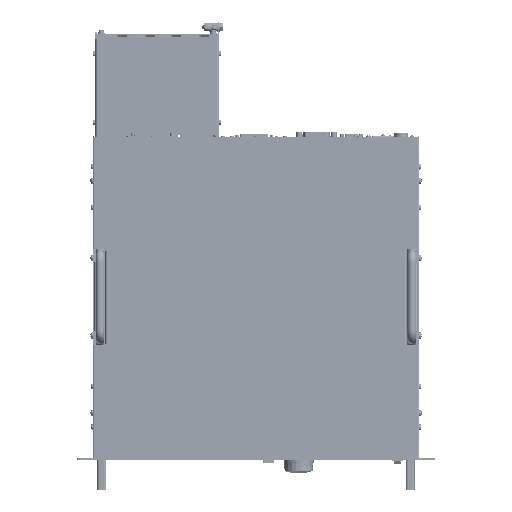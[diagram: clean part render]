
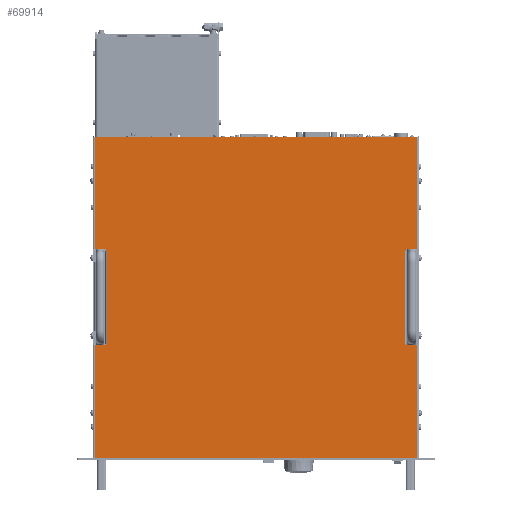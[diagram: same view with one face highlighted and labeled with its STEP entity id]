
A CAD part, top view. The second image highlights one B-rep face of the part: STEP entity #69914.
In plain terms, the highlighted planar face has unit normal (0, 0, 1).
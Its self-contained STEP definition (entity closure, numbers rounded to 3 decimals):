
#69914=ADVANCED_FACE('',(#141802),#141803,.F.);
#141802=FACE_OUTER_BOUND('',#247665,.T.);
#141803=PLANE('',#247666);
#247665=EDGE_LOOP('',(#444983,#444984,#444985,#444986,#444987,#444988,#444989,#444990,#444991,#444992,#444993,#444994,#444995,#444996,#444997,#444998,#444999,#445000,#445001,#445002));
#247666=AXIS2_PLACEMENT_3D('',#445003,#445004,#445005);
#444983=ORIENTED_EDGE('',*,*,#530722,.T.);
#444984=ORIENTED_EDGE('',*,*,#530742,.F.);
#444985=ORIENTED_EDGE('',*,*,#530743,.F.);
#444986=ORIENTED_EDGE('',*,*,#530386,.F.);
#444987=ORIENTED_EDGE('',*,*,#530708,.F.);
#444988=ORIENTED_EDGE('',*,*,#530371,.F.);
#444989=ORIENTED_EDGE('',*,*,#530697,.F.);
#444990=ORIENTED_EDGE('',*,*,#530744,.F.);
#444991=ORIENTED_EDGE('',*,*,#530740,.T.);
#444992=ORIENTED_EDGE('',*,*,#530735,.F.);
#444993=ORIENTED_EDGE('',*,*,#530732,.T.);
#444994=ORIENTED_EDGE('',*,*,#530745,.F.);
#444995=ORIENTED_EDGE('',*,*,#530673,.F.);
#444996=ORIENTED_EDGE('',*,*,#530361,.F.);
#444997=ORIENTED_EDGE('',*,*,#530662,.F.);
#444998=ORIENTED_EDGE('',*,*,#530381,.F.);
#444999=ORIENTED_EDGE('',*,*,#530746,.F.);
#445000=ORIENTED_EDGE('',*,*,#530747,.F.);
#445001=ORIENTED_EDGE('',*,*,#530719,.T.);
#445002=ORIENTED_EDGE('',*,*,#530727,.T.);
#445003=CARTESIAN_POINT('',(239.8,220.125,86.465));
#445004=DIRECTION('',(0.,0.,-1.0));
#445005=DIRECTION('',(1.0,0.,0.));
#530361=EDGE_CURVE('',#645215,#645217,#645218,.T.);
#530371=EDGE_CURVE('',#645233,#645235,#645236,.T.);
#530381=EDGE_CURVE('',#645251,#645253,#645254,.T.);
#530386=EDGE_CURVE('',#645260,#645262,#645263,.T.);
#530662=EDGE_CURVE('',#645253,#645215,#645693,.T.);
#530673=EDGE_CURVE('',#645217,#645708,#645709,.T.);
#530697=EDGE_CURVE('',#645741,#645233,#645743,.T.);
#530708=EDGE_CURVE('',#645235,#645260,#645758,.T.);
#530719=EDGE_CURVE('',#645769,#645772,#645774,.T.);
#530722=EDGE_CURVE('',#645779,#645776,#645780,.T.);
#530727=EDGE_CURVE('',#645772,#645779,#645785,.T.);
#530732=EDGE_CURVE('',#645791,#645789,#645792,.T.);
#530735=EDGE_CURVE('',#645791,#645795,#645796,.T.);
#530740=EDGE_CURVE('',#645801,#645795,#645803,.T.);
#530742=EDGE_CURVE('',#645805,#645776,#645806,.T.);
#530743=EDGE_CURVE('',#645262,#645805,#645807,.T.);
#530744=EDGE_CURVE('',#645801,#645741,#645808,.T.);
#530745=EDGE_CURVE('',#645708,#645789,#645809,.T.);
#530746=EDGE_CURVE('',#645810,#645251,#645811,.T.);
#530747=EDGE_CURVE('',#645769,#645810,#645812,.T.);
#645215=VERTEX_POINT('',#807126);
#645217=VERTEX_POINT('',#807128);
#645218=LINE('',#807129,#807130);
#645233=VERTEX_POINT('',#807148);
#645235=VERTEX_POINT('',#807150);
#645236=LINE('',#807151,#807152);
#645251=VERTEX_POINT('',#807170);
#645253=VERTEX_POINT('',#807172);
#645254=LINE('',#807173,#807174);
#645260=VERTEX_POINT('',#807181);
#645262=VERTEX_POINT('',#807183);
#645263=LINE('',#807184,#807185);
#645693=LINE('',#807736,#807737);
#645708=VERTEX_POINT('',#807757);
#645709=LINE('',#807758,#807759);
#645741=VERTEX_POINT('',#807805);
#645743=LINE('',#807808,#807809);
#645758=LINE('',#807829,#807830);
#645769=VERTEX_POINT('',#807845);
#645772=VERTEX_POINT('',#807849);
#645774=LINE('',#807851,#807852);
#645776=VERTEX_POINT('',#807854);
#645779=VERTEX_POINT('',#807858);
#645780=LINE('',#807859,#807860);
#645785=LINE('',#807865,#807866);
#645789=VERTEX_POINT('',#807871);
#645791=VERTEX_POINT('',#807874);
#645792=LINE('',#807875,#807876);
#645795=VERTEX_POINT('',#807879);
#645796=LINE('',#807880,#807881);
#645801=VERTEX_POINT('',#807886);
#645803=LINE('',#807889,#807890);
#645805=VERTEX_POINT('',#807892);
#645806=LINE('',#807893,#807894);
#645807=LINE('',#807895,#807896);
#645808=LINE('',#807897,#807898);
#645809=LINE('',#807899,#807900);
#645810=VERTEX_POINT('',#807901);
#645811=LINE('',#807902,#807903);
#645812=LINE('',#807904,#807905);
#807126=CARTESIAN_POINT('',(22.123,3.5,86.465));
#807128=CARTESIAN_POINT('',(22.123,155.5,86.465));
#807129=CARTESIAN_POINT('',(22.123,149.813,86.465));
#807130=VECTOR('',#904101,1.0);
#807148=CARTESIAN_POINT('',(22.123,284.75,86.465));
#807150=CARTESIAN_POINT('',(22.123,436.75,86.465));
#807151=CARTESIAN_POINT('',(22.123,290.438,86.465));
#807152=VECTOR('',#904117,1.0);
#807170=CARTESIAN_POINT('',(457.477,155.5,86.465));
#807172=CARTESIAN_POINT('',(457.477,3.5,86.465));
#807173=CARTESIAN_POINT('',(457.477,149.813,86.465));
#807174=VECTOR('',#904133,1.0);
#807181=CARTESIAN_POINT('',(457.477,436.75,86.465));
#807183=CARTESIAN_POINT('',(457.477,284.75,86.465));
#807184=CARTESIAN_POINT('',(457.477,290.438,86.465));
#807185=VECTOR('',#904141,1.0);
#807736=CARTESIAN_POINT('',(460.227,3.5,86.465));
#807737=VECTOR('',#904527,1.0);
#807757=CARTESIAN_POINT('',(37.373,155.5,86.465));
#807758=CARTESIAN_POINT('',(19.373,155.5,86.465));
#807759=VECTOR('',#904545,1.0);
#807805=CARTESIAN_POINT('',(37.373,284.75,86.465));
#807808=CARTESIAN_POINT('',(37.373,284.75,86.465));
#807809=VECTOR('',#904573,1.0);
#807829=CARTESIAN_POINT('',(19.373,436.75,86.465));
#807830=VECTOR('',#904591,1.0);
#807845=CARTESIAN_POINT('',(442.227,157.5,86.465));
#807849=CARTESIAN_POINT('',(440.477,157.5,86.465));
#807851=CARTESIAN_POINT('',(341.093,157.5,86.465));
#807852=VECTOR('',#904603,1.0);
#807854=CARTESIAN_POINT('',(442.227,282.75,86.465));
#807858=CARTESIAN_POINT('',(440.477,282.75,86.465));
#807859=CARTESIAN_POINT('',(341.093,282.75,86.465));
#807860=VECTOR('',#904605,1.0);
#807865=CARTESIAN_POINT('',(440.477,220.125,86.465));
#807866=VECTOR('',#904615,1.0);
#807871=CARTESIAN_POINT('',(37.373,157.5,86.465));
#807874=CARTESIAN_POINT('',(39.123,157.5,86.465));
#807875=CARTESIAN_POINT('',(138.507,157.5,86.465));
#807876=VECTOR('',#904618,1.0);
#807879=CARTESIAN_POINT('',(39.123,282.75,86.465));
#807880=CARTESIAN_POINT('',(39.123,220.125,86.465));
#807881=VECTOR('',#904622,1.0);
#807886=CARTESIAN_POINT('',(37.373,282.75,86.465));
#807889=CARTESIAN_POINT('',(138.507,282.75,86.465));
#807890=VECTOR('',#904630,1.0);
#807892=CARTESIAN_POINT('',(442.227,284.75,86.465));
#807893=CARTESIAN_POINT('',(442.227,284.75,86.465));
#807894=VECTOR('',#904631,1.0);
#807895=CARTESIAN_POINT('',(460.227,284.75,86.465));
#807896=VECTOR('',#904632,1.0);
#807897=CARTESIAN_POINT('',(37.373,282.75,86.465));
#807898=VECTOR('',#904633,1.0);
#807899=CARTESIAN_POINT('',(37.373,155.5,86.465));
#807900=VECTOR('',#904634,1.0);
#807901=CARTESIAN_POINT('',(442.227,155.5,86.465));
#807902=CARTESIAN_POINT('',(442.227,155.5,86.465));
#807903=VECTOR('',#904635,1.0);
#807904=CARTESIAN_POINT('',(442.227,157.5,86.465));
#807905=VECTOR('',#904636,1.0);
#904101=DIRECTION('',(0.0,1.0,0.));
#904117=DIRECTION('',(0.0,1.0,0.));
#904133=DIRECTION('',(0.0,-1.0,0.));
#904141=DIRECTION('',(0.0,-1.0,0.));
#904527=DIRECTION('',(-1.0,0.0,0.));
#904545=DIRECTION('',(1.0,0.0,0.0));
#904573=DIRECTION('',(-1.0,0.0,0.0));
#904591=DIRECTION('',(1.0,0.0,0.0));
#904603=DIRECTION('',(-1.0,0.0,0.0));
#904605=DIRECTION('',(1.0,0.0,0.0));
#904615=DIRECTION('',(0.0,1.0,0.));
#904618=DIRECTION('',(-1.0,0.0,0.0));
#904622=DIRECTION('',(0.0,1.0,0.));
#904630=DIRECTION('',(1.0,0.0,0.0));
#904631=DIRECTION('',(0.0,-1.0,0.));
#904632=DIRECTION('',(-1.0,0.0,0.0));
#904633=DIRECTION('',(0.0,1.0,0.));
#904634=DIRECTION('',(0.0,1.0,0.));
#904635=DIRECTION('',(1.0,0.0,0.0));
#904636=DIRECTION('',(0.0,-1.0,0.));
